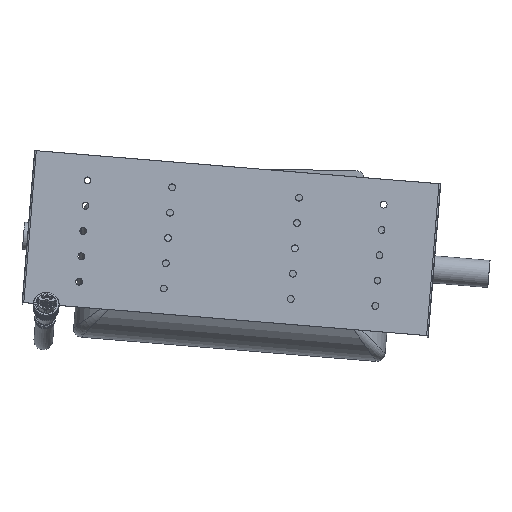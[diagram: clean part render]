
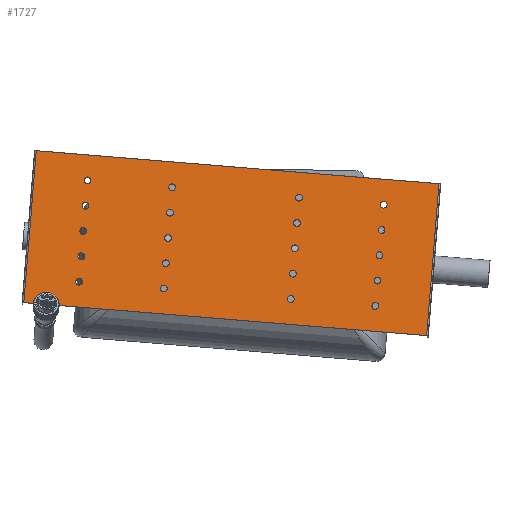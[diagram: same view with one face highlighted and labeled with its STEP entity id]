
A CAD part, top view. The second image highlights one B-rep face of the part: STEP entity #1727.
In plain terms, the highlighted planar face has unit normal (0.006, 0.075, 0.997) as drawn and (0, 0, -1) by its records, which use the part's own axes.
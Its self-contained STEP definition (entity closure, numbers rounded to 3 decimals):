
#1727=ADVANCED_FACE('',(#28622,#28624,#28626,#28628,#28630,#28632,#28634,#28636,
#28638,#28640,#28642,#28644,#28646,#28648,#28650,#28652,#28654,#28656,#28658,#28660,
#28662),#28664,.F.);
#28622=FACE_BOUND('',#28623,.T.);
#28623=EDGE_LOOP('',(#62086,#62087,#62088,#62089));
#28624=FACE_BOUND('',#28625,.T.);
#28625=EDGE_LOOP('',(#62090));
#28626=FACE_BOUND('',#28627,.T.);
#28627=EDGE_LOOP('',(#62091));
#28628=FACE_BOUND('',#28629,.T.);
#28629=EDGE_LOOP('',(#62092));
#28630=FACE_BOUND('',#28631,.T.);
#28631=EDGE_LOOP('',(#62093));
#28632=FACE_BOUND('',#28633,.T.);
#28633=EDGE_LOOP('',(#62094));
#28634=FACE_BOUND('',#28635,.T.);
#28635=EDGE_LOOP('',(#62095));
#28636=FACE_BOUND('',#28637,.T.);
#28637=EDGE_LOOP('',(#62096));
#28638=FACE_BOUND('',#28639,.T.);
#28639=EDGE_LOOP('',(#62097));
#28640=FACE_BOUND('',#28641,.T.);
#28641=EDGE_LOOP('',(#62098));
#28642=FACE_BOUND('',#28643,.T.);
#28643=EDGE_LOOP('',(#62099));
#28644=FACE_BOUND('',#28645,.T.);
#28645=EDGE_LOOP('',(#62100));
#28646=FACE_BOUND('',#28647,.T.);
#28647=EDGE_LOOP('',(#62101));
#28648=FACE_BOUND('',#28649,.T.);
#28649=EDGE_LOOP('',(#62102));
#28650=FACE_BOUND('',#28651,.T.);
#28651=EDGE_LOOP('',(#62103));
#28652=FACE_BOUND('',#28653,.T.);
#28653=EDGE_LOOP('',(#62104));
#28654=FACE_BOUND('',#28655,.T.);
#28655=EDGE_LOOP('',(#62105));
#28656=FACE_BOUND('',#28657,.T.);
#28657=EDGE_LOOP('',(#62106));
#28658=FACE_BOUND('',#28659,.T.);
#28659=EDGE_LOOP('',(#62107));
#28660=FACE_BOUND('',#28661,.T.);
#28661=EDGE_LOOP('',(#62108));
#28662=FACE_BOUND('',#28663,.T.);
#28663=EDGE_LOOP('',(#62109));
#28664=PLANE('',#28665);
#28665=AXIS2_PLACEMENT_3D('',#28666,#28667,#28668);
#28666=CARTESIAN_POINT('',(0.,0.,0.));
#28667=DIRECTION('',(0.,0.,1.));
#28668=DIRECTION('',(-1.,0.,0.));
#62086=ORIENTED_EDGE('',*,*,#80366,.T.);
#62087=ORIENTED_EDGE('',*,*,#80367,.F.);
#62088=ORIENTED_EDGE('',*,*,#80368,.T.);
#62089=ORIENTED_EDGE('',*,*,#80369,.F.);
#62090=ORIENTED_EDGE('',*,*,#80370,.T.);
#62091=ORIENTED_EDGE('',*,*,#80371,.T.);
#62092=ORIENTED_EDGE('',*,*,#80372,.T.);
#62093=ORIENTED_EDGE('',*,*,#80373,.T.);
#62094=ORIENTED_EDGE('',*,*,#80374,.T.);
#62095=ORIENTED_EDGE('',*,*,#80375,.T.);
#62096=ORIENTED_EDGE('',*,*,#80376,.T.);
#62097=ORIENTED_EDGE('',*,*,#80377,.T.);
#62098=ORIENTED_EDGE('',*,*,#80378,.T.);
#62099=ORIENTED_EDGE('',*,*,#80379,.T.);
#62100=ORIENTED_EDGE('',*,*,#80380,.T.);
#62101=ORIENTED_EDGE('',*,*,#80381,.T.);
#62102=ORIENTED_EDGE('',*,*,#80382,.T.);
#62103=ORIENTED_EDGE('',*,*,#80383,.T.);
#62104=ORIENTED_EDGE('',*,*,#80384,.T.);
#62105=ORIENTED_EDGE('',*,*,#80385,.T.);
#62106=ORIENTED_EDGE('',*,*,#80386,.T.);
#62107=ORIENTED_EDGE('',*,*,#80387,.T.);
#62108=ORIENTED_EDGE('',*,*,#80388,.T.);
#62109=ORIENTED_EDGE('',*,*,#80389,.T.);
#80366=EDGE_CURVE('',#90511,#90512,#90513,.T.);
#80367=EDGE_CURVE('',#90514,#90512,#90515,.T.);
#80368=EDGE_CURVE('',#90514,#90516,#90517,.T.);
#80369=EDGE_CURVE('',#90511,#90516,#90518,.T.);
#80370=EDGE_CURVE('',#90519,#90519,#90520,.F.);
#80371=EDGE_CURVE('',#90521,#90521,#90522,.F.);
#80372=EDGE_CURVE('',#90523,#90523,#90524,.F.);
#80373=EDGE_CURVE('',#90525,#90525,#90526,.F.);
#80374=EDGE_CURVE('',#90527,#90527,#90528,.F.);
#80375=EDGE_CURVE('',#90529,#90529,#90530,.F.);
#80376=EDGE_CURVE('',#90531,#90531,#90532,.F.);
#80377=EDGE_CURVE('',#90533,#90533,#90534,.F.);
#80378=EDGE_CURVE('',#90535,#90535,#90536,.F.);
#80379=EDGE_CURVE('',#90537,#90537,#90538,.F.);
#80380=EDGE_CURVE('',#90539,#90539,#90540,.F.);
#80381=EDGE_CURVE('',#90541,#90541,#90542,.F.);
#80382=EDGE_CURVE('',#90543,#90543,#90544,.F.);
#80383=EDGE_CURVE('',#90545,#90545,#90546,.F.);
#80384=EDGE_CURVE('',#90547,#90547,#90548,.F.);
#80385=EDGE_CURVE('',#90549,#90549,#90550,.F.);
#80386=EDGE_CURVE('',#90551,#90551,#90552,.F.);
#80387=EDGE_CURVE('',#90553,#90553,#90554,.F.);
#80388=EDGE_CURVE('',#90555,#90555,#90556,.F.);
#80389=EDGE_CURVE('',#90557,#90557,#90558,.F.);
#90511=VERTEX_POINT('',#120224);
#90512=VERTEX_POINT('',#120225);
#90513=LINE('',#120226,#120227);
#90514=VERTEX_POINT('',#120229);
#90515=LINE('',#120230,#120231);
#90516=VERTEX_POINT('',#120233);
#90517=LINE('',#120234,#120235);
#90518=LINE('',#120237,#120238);
#90519=VERTEX_POINT('',#120240);
#90520=CIRCLE('',#120241,4.);
#90521=VERTEX_POINT('',#120245);
#90522=CIRCLE('',#120246,4.);
#90523=VERTEX_POINT('',#120250);
#90524=CIRCLE('',#120251,4.);
#90525=VERTEX_POINT('',#120255);
#90526=CIRCLE('',#120256,4.);
#90527=VERTEX_POINT('',#120260);
#90528=CIRCLE('',#120261,4.);
#90529=VERTEX_POINT('',#120265);
#90530=CIRCLE('',#120266,4.);
#90531=VERTEX_POINT('',#120270);
#90532=CIRCLE('',#120271,4.);
#90533=VERTEX_POINT('',#120275);
#90534=CIRCLE('',#120276,4.);
#90535=VERTEX_POINT('',#120280);
#90536=CIRCLE('',#120281,4.);
#90537=VERTEX_POINT('',#120285);
#90538=CIRCLE('',#120286,4.);
#90539=VERTEX_POINT('',#120290);
#90540=CIRCLE('',#120291,4.);
#90541=VERTEX_POINT('',#120295);
#90542=CIRCLE('',#120296,4.);
#90543=VERTEX_POINT('',#120300);
#90544=CIRCLE('',#120301,4.);
#90545=VERTEX_POINT('',#120305);
#90546=CIRCLE('',#120306,4.);
#90547=VERTEX_POINT('',#120310);
#90548=CIRCLE('',#120311,4.);
#90549=VERTEX_POINT('',#120315);
#90550=CIRCLE('',#120316,4.);
#90551=VERTEX_POINT('',#120320);
#90552=CIRCLE('',#120321,4.);
#90553=VERTEX_POINT('',#120325);
#90554=CIRCLE('',#120326,4.);
#90555=VERTEX_POINT('',#120330);
#90556=CIRCLE('',#120331,4.);
#90557=VERTEX_POINT('',#120335);
#90558=CIRCLE('',#120336,4.);
#120224=CARTESIAN_POINT('',(-180.,50.,0.));
#120225=CARTESIAN_POINT('',(0.,50.,0.));
#120226=CARTESIAN_POINT('',(-180.,50.,0.));
#120227=VECTOR('',#120228,1.);
#120228=DIRECTION('',(1.,0.,0.));
#120229=CARTESIAN_POINT('',(0.,-426.,0.));
#120230=CARTESIAN_POINT('',(0.,-426.,0.));
#120231=VECTOR('',#120232,1.);
#120232=DIRECTION('',(0.,1.,0.));
#120233=CARTESIAN_POINT('',(-180.,-426.,0.));
#120234=CARTESIAN_POINT('',(0.,-426.,0.));
#120235=VECTOR('',#120236,1.);
#120236=DIRECTION('',(-1.,0.,0.));
#120237=CARTESIAN_POINT('',(-180.,50.,0.));
#120238=VECTOR('',#120239,1.);
#120239=DIRECTION('',(0.,-1.,0.));
#120240=CARTESIAN_POINT('',(-34.,-113.,0.));
#120241=AXIS2_PLACEMENT_3D('',#120242,#120243,#120244);
#120242=CARTESIAN_POINT('',(-30.,-113.,0.));
#120243=DIRECTION('',(0.,0.,-1.));
#120244=DIRECTION('',(-1.,0.,0.));
#120245=CARTESIAN_POINT('',(-34.,-13.,0.));
#120246=AXIS2_PLACEMENT_3D('',#120247,#120248,#120249);
#120247=CARTESIAN_POINT('',(-30.,-13.,0.));
#120248=DIRECTION('',(0.,0.,-1.));
#120249=DIRECTION('',(-1.,0.,0.));
#120250=CARTESIAN_POINT('',(-34.,-363.,0.));
#120251=AXIS2_PLACEMENT_3D('',#120252,#120253,#120254);
#120252=CARTESIAN_POINT('',(-30.,-363.,0.));
#120253=DIRECTION('',(0.,0.,-1.));
#120254=DIRECTION('',(-1.,0.,0.));
#120255=CARTESIAN_POINT('',(-94.,-113.,0.));
#120256=AXIS2_PLACEMENT_3D('',#120257,#120258,#120259);
#120257=CARTESIAN_POINT('',(-90.,-113.,0.));
#120258=DIRECTION('',(0.,0.,-1.));
#120259=DIRECTION('',(-1.,0.,0.));
#120260=CARTESIAN_POINT('',(-124.,-113.,0.));
#120261=AXIS2_PLACEMENT_3D('',#120262,#120263,#120264);
#120262=CARTESIAN_POINT('',(-120.,-113.,0.));
#120263=DIRECTION('',(0.,0.,-1.));
#120264=DIRECTION('',(-1.,0.,0.));
#120265=CARTESIAN_POINT('',(-154.,-113.,0.));
#120266=AXIS2_PLACEMENT_3D('',#120267,#120268,#120269);
#120267=CARTESIAN_POINT('',(-150.,-113.,0.));
#120268=DIRECTION('',(0.,0.,-1.));
#120269=DIRECTION('',(-1.,0.,0.));
#120270=CARTESIAN_POINT('',(-154.,-263.,0.));
#120271=AXIS2_PLACEMENT_3D('',#120272,#120273,#120274);
#120272=CARTESIAN_POINT('',(-150.,-263.,0.));
#120273=DIRECTION('',(0.,0.,-1.));
#120274=DIRECTION('',(-1.,0.,0.));
#120275=CARTESIAN_POINT('',(-124.,-263.,0.));
#120276=AXIS2_PLACEMENT_3D('',#120277,#120278,#120279);
#120277=CARTESIAN_POINT('',(-120.,-263.,0.));
#120278=DIRECTION('',(0.,0.,-1.));
#120279=DIRECTION('',(-1.,0.,0.));
#120280=CARTESIAN_POINT('',(-94.,-263.,0.));
#120281=AXIS2_PLACEMENT_3D('',#120282,#120283,#120284);
#120282=CARTESIAN_POINT('',(-90.,-263.,0.));
#120283=DIRECTION('',(0.,0.,-1.));
#120284=DIRECTION('',(-1.,0.,0.));
#120285=CARTESIAN_POINT('',(-64.,-263.,0.));
#120286=AXIS2_PLACEMENT_3D('',#120287,#120288,#120289);
#120287=CARTESIAN_POINT('',(-60.,-263.,0.));
#120288=DIRECTION('',(0.,0.,-1.));
#120289=DIRECTION('',(-1.,0.,0.));
#120290=CARTESIAN_POINT('',(-34.,-263.,0.));
#120291=AXIS2_PLACEMENT_3D('',#120292,#120293,#120294);
#120292=CARTESIAN_POINT('',(-30.,-263.,0.));
#120293=DIRECTION('',(0.,0.,-1.));
#120294=DIRECTION('',(-1.,0.,0.));
#120295=CARTESIAN_POINT('',(-64.,-13.,0.));
#120296=AXIS2_PLACEMENT_3D('',#120297,#120298,#120299);
#120297=CARTESIAN_POINT('',(-60.,-13.,0.));
#120298=DIRECTION('',(0.,0.,-1.));
#120299=DIRECTION('',(-1.,0.,0.));
#120300=CARTESIAN_POINT('',(-94.,-13.,0.));
#120301=AXIS2_PLACEMENT_3D('',#120302,#120303,#120304);
#120302=CARTESIAN_POINT('',(-90.,-13.,0.));
#120303=DIRECTION('',(0.,0.,-1.));
#120304=DIRECTION('',(-1.,0.,0.));
#120305=CARTESIAN_POINT('',(-124.,-13.,0.));
#120306=AXIS2_PLACEMENT_3D('',#120307,#120308,#120309);
#120307=CARTESIAN_POINT('',(-120.,-13.,0.));
#120308=DIRECTION('',(0.,0.,-1.));
#120309=DIRECTION('',(-1.,0.,0.));
#120310=CARTESIAN_POINT('',(-154.,-13.,0.));
#120311=AXIS2_PLACEMENT_3D('',#120312,#120313,#120314);
#120312=CARTESIAN_POINT('',(-150.,-13.,0.));
#120313=DIRECTION('',(0.,0.,-1.));
#120314=DIRECTION('',(-1.,0.,0.));
#120315=CARTESIAN_POINT('',(-94.,-363.,0.));
#120316=AXIS2_PLACEMENT_3D('',#120317,#120318,#120319);
#120317=CARTESIAN_POINT('',(-90.,-363.,0.));
#120318=DIRECTION('',(0.,0.,-1.));
#120319=DIRECTION('',(-1.,0.,0.));
#120320=CARTESIAN_POINT('',(-124.,-363.,0.));
#120321=AXIS2_PLACEMENT_3D('',#120322,#120323,#120324);
#120322=CARTESIAN_POINT('',(-120.,-363.,0.));
#120323=DIRECTION('',(0.,0.,-1.));
#120324=DIRECTION('',(-1.,0.,0.));
#120325=CARTESIAN_POINT('',(-154.,-363.,0.));
#120326=AXIS2_PLACEMENT_3D('',#120327,#120328,#120329);
#120327=CARTESIAN_POINT('',(-150.,-363.,0.));
#120328=DIRECTION('',(0.,0.,-1.));
#120329=DIRECTION('',(-1.,0.,0.));
#120330=CARTESIAN_POINT('',(-64.,-113.,0.));
#120331=AXIS2_PLACEMENT_3D('',#120332,#120333,#120334);
#120332=CARTESIAN_POINT('',(-60.,-113.,0.));
#120333=DIRECTION('',(0.,0.,-1.));
#120334=DIRECTION('',(-1.,0.,0.));
#120335=CARTESIAN_POINT('',(-64.,-363.,0.));
#120336=AXIS2_PLACEMENT_3D('',#120337,#120338,#120339);
#120337=CARTESIAN_POINT('',(-60.,-363.,0.));
#120338=DIRECTION('',(0.,0.,-1.));
#120339=DIRECTION('',(-1.,0.,0.));
